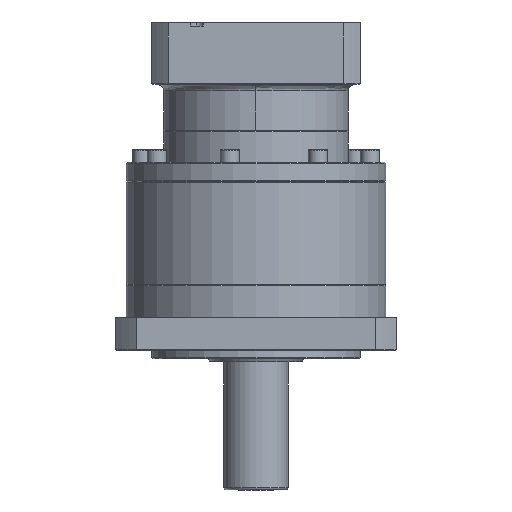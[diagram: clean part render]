
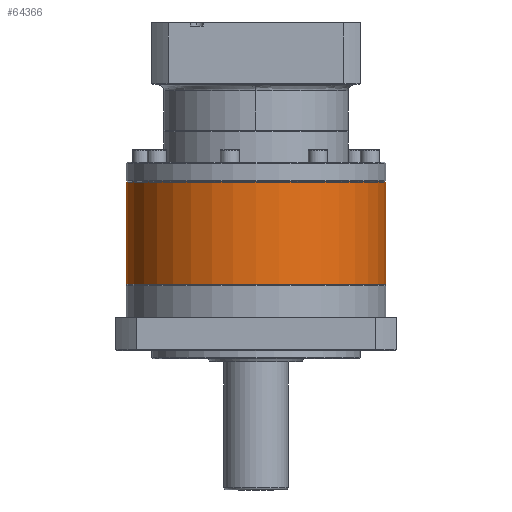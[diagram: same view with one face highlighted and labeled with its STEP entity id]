
A CAD part, front view. The second image highlights one B-rep face of the part: STEP entity #64366.
In plain terms, the highlighted cylindrical face has radius 81 mm (diameter 162 mm), a partial arc.
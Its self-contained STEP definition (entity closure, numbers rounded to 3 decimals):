
#2208 = EDGE_CURVE ( 'NONE', #70693, #116303, #20798, .T. ) ;
#4026 = DIRECTION ( 'NONE',  ( -1., 0., 0. ) ) ;
#5569 = AXIS2_PLACEMENT_3D ( 'NONE', #59228, #14849, #4026 ) ;
#5875 = EDGE_CURVE ( 'NONE', #70693, #43547, #105224, .T. ) ;
#9043 = ORIENTED_EDGE ( 'NONE', *, *, #81328, .T. ) ;
#9884 = DIRECTION ( 'NONE',  ( 0., 0., -1. ) ) ;
#14849 = DIRECTION ( 'NONE',  ( 0., 0., 1. ) ) ;
#20798 = LINE ( 'NONE', #21859, #75510 ) ;
#21859 = CARTESIAN_POINT ( 'NONE',  ( -47.718, 114.142, -98.792 ) ) ;
#26724 = DIRECTION ( 'NONE',  ( -1., 0., 0. ) ) ;
#28355 = EDGE_LOOP ( 'NONE', ( #100376, #94891, #57078, #9043 ) ) ;
#28669 = DIRECTION ( 'NONE',  ( 0., 0., -1. ) ) ;
#41833 = CIRCLE ( 'NONE', #5569, 81. ) ;
#43547 = VERTEX_POINT ( 'NONE', #109431 ) ;
#56730 = CYLINDRICAL_SURFACE ( 'NONE', #122619, 81. ) ;
#57078 = ORIENTED_EDGE ( 'NONE', *, *, #116837, .T. ) ;
#59228 = CARTESIAN_POINT ( 'NONE',  ( -128.718, 114.142, -162.792 ) ) ;
#60271 = FACE_OUTER_BOUND ( 'NONE', #28355, .T. ) ;
#64366 = ADVANCED_FACE ( 'NONE', ( #60271 ), #56730, .T. ) ;
#65724 = CARTESIAN_POINT ( 'NONE',  ( -47.718, 114.142, -162.792 ) ) ;
#70693 = VERTEX_POINT ( 'NONE', #114333 ) ;
#71076 = DIRECTION ( 'NONE',  ( 0., 0., -1. ) ) ;
#75510 = VECTOR ( 'NONE', #121906, 1000. ) ;
#76859 = CARTESIAN_POINT ( 'NONE',  ( -209.718, 114.142, -98.792 ) ) ;
#81328 = EDGE_CURVE ( 'NONE', #112810, #116303, #41833, .T. ) ;
#84840 = CARTESIAN_POINT ( 'NONE',  ( -128.718, 114.142, -99.292 ) ) ;
#89291 = AXIS2_PLACEMENT_3D ( 'NONE', #84840, #28669, #107538 ) ;
#94891 = ORIENTED_EDGE ( 'NONE', *, *, #5875, .T. ) ;
#100376 = ORIENTED_EDGE ( 'NONE', *, *, #2208, .F. ) ;
#104555 = CARTESIAN_POINT ( 'NONE',  ( -128.718, 114.142, -98.792 ) ) ;
#105224 = CIRCLE ( 'NONE', #89291, 81. ) ;
#107538 = DIRECTION ( 'NONE',  ( -1., 0., 0. ) ) ;
#109431 = CARTESIAN_POINT ( 'NONE',  ( -209.718, 114.142, -99.292 ) ) ;
#109962 = CARTESIAN_POINT ( 'NONE',  ( -209.718, 114.142, -162.792 ) ) ;
#112810 = VERTEX_POINT ( 'NONE', #109962 ) ;
#114333 = CARTESIAN_POINT ( 'NONE',  ( -47.718, 114.142, -99.292 ) ) ;
#116303 = VERTEX_POINT ( 'NONE', #65724 ) ;
#116522 = LINE ( 'NONE', #76859, #118218 ) ;
#116837 = EDGE_CURVE ( 'NONE', #43547, #112810, #116522, .T. ) ;
#118218 = VECTOR ( 'NONE', #9884, 1000. ) ;
#121906 = DIRECTION ( 'NONE',  ( 0., 0., -1. ) ) ;
#122619 = AXIS2_PLACEMENT_3D ( 'NONE', #104555, #71076, #26724 ) ;
